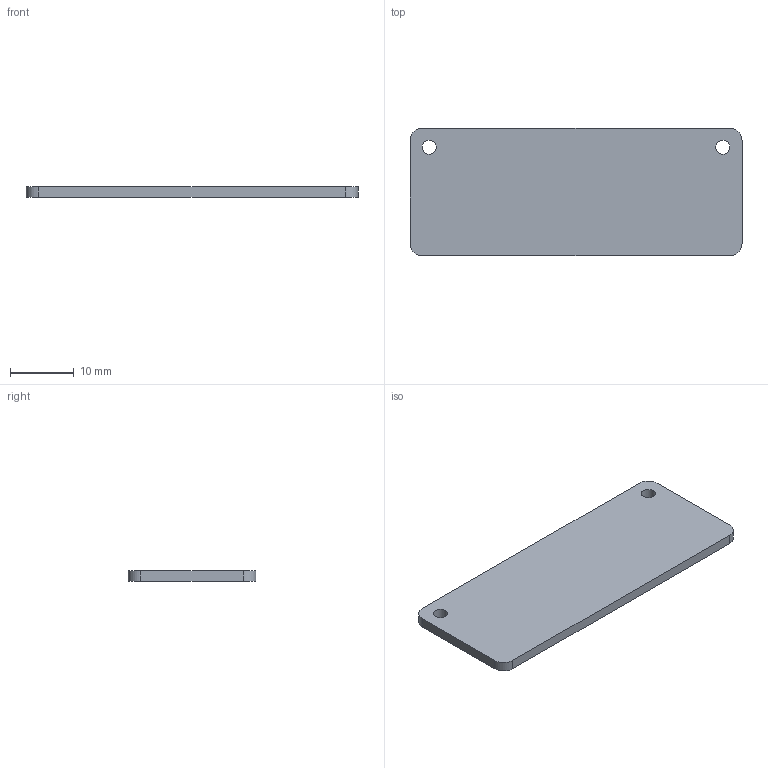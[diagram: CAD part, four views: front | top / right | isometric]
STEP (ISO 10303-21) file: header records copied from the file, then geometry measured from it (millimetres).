
FILE_DESCRIPTION(('FreeCAD Model'),'2;1');
FILE_NAME('Open CASCADE Shape Model','2026-10-20T15:22:03',('FreeCAD'),( 'FreeCAD'),'Open CASCADE STEP processor 7.8','FreeCAD','Unknown');
FILE_SCHEMA(('AUTOMOTIVE_DESIGN { 1 0 10303 214 1 1 1 1 }'));
Length unit declared in the file: millimetre
Products named in the file (1): Open CASCADE STEP translator 7.8 3
Bounding box: 52 x 20 x 1.6 mm (x, y, z)
Volume: 1646.3 mm3; surface area: 2305 mm2
Topology: 1 solids, 1 shells, 12 faces, 30 edges, 20 vertices
Faces by surface type: cylinder 6, plane 6
Full cylindrical faces by diameter (mm): 2.2 x2
Entity records: 384 total; most frequent: DIRECTION 68, CARTESIAN_POINT 63, ORIENTED_EDGE 60, EDGE_CURVE 30, AXIS2_PLACEMENT_3D 25, VERTEX_POINT 20, LINE 18, VECTOR 18
